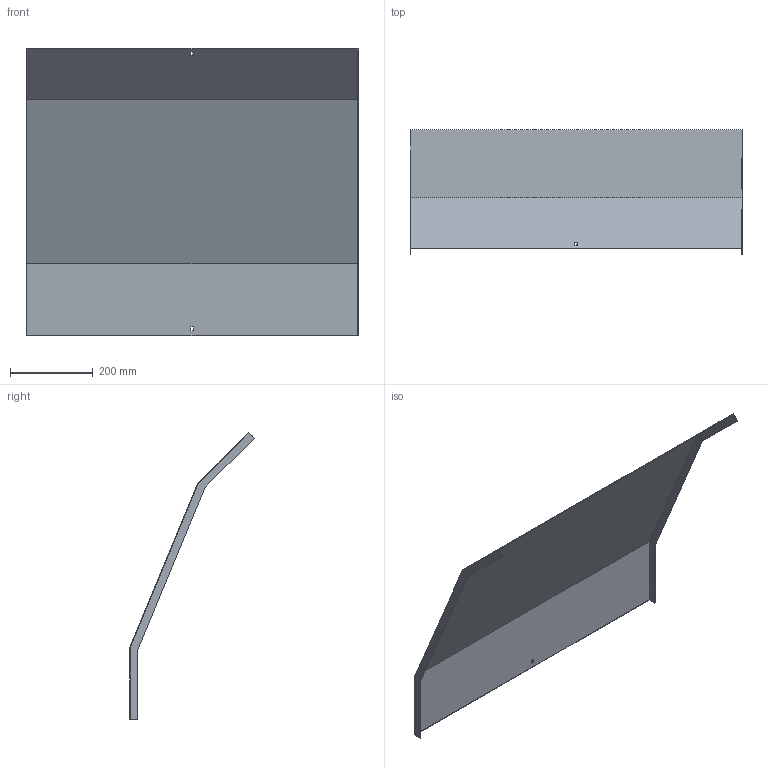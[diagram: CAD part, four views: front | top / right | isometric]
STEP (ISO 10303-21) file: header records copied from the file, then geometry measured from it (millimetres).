
FILE_DESCRIPTION (( 'STEP AP214' ), '1' );
FILE_NAME ('34N5D800.step', '2025-02-21T10:33:27', ( '' ), ( '' ), 'SwSTEP 2.0', 'SolidWorks 2023', '' );
FILE_SCHEMA (( 'AUTOMOTIVE_DESIGN' ));
Length unit declared in the file: millimetre
Products named in the file (1): 34N5D800
Bounding box: 803 x 301.7 x 694.23 mm (x, y, z)
Volume: 978801.4 mm3; surface area: 1309969.3 mm2
Topology: 1 solids, 1 shells, 26 faces, 72 edges, 48 vertices
Faces by surface type: plane 26
Entity records: 847 total; most frequent: CARTESIAN_POINT 147, ORIENTED_EDGE 144, DIRECTION 126, EDGE_CURVE 72, VECTOR 72, LINE 72, VERTEX_POINT 48, EDGE_LOOP 30
